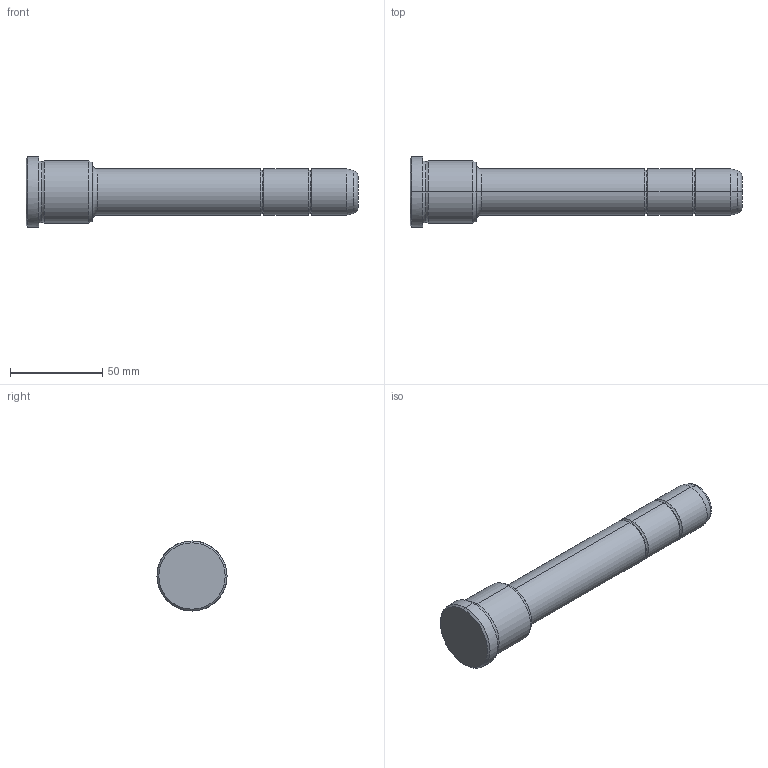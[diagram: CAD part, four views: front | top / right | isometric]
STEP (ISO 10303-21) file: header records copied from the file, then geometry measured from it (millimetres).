
FILE_DESCRIPTION(('CATIA V5 STEP Exchange'),'2;1');
FILE_NAME('C:\Users\Utente\Desktop\IO LAVORO\3D X SITO CF\X SITO\PLASTICA\351\351-25X36X180.stp','2021-08-28T09:16:39+00:00',('none'),('none'),'CATIA Version 5 Release 20 GA (IN-10)','CATIA V5 STEP AP203','none');
FILE_SCHEMA(('CONFIG_CONTROL_DESIGN'));
Length unit declared in the file: millimetre
Products named in the file (1): 351-25X36X180
Bounding box: 180 x 38 x 38 mm (x, y, z)
Volume: 104165.3 mm3; surface area: 17201.2 mm2
Topology: 1 solids, 1 shells, 36 faces, 102 edges, 70 vertices
Faces by surface type: torus 16, cylinder 10, cone 6, plane 4
Entity records: 1292 total; most frequent: CARTESIAN_POINT 321, ORIENTED_EDGE 204, DIRECTION 166, AXIS2_PLACEMENT_3D 115, EDGE_CURVE 102, CIRCLE 78, VERTEX_POINT 70, EDGE_LOOP 38
